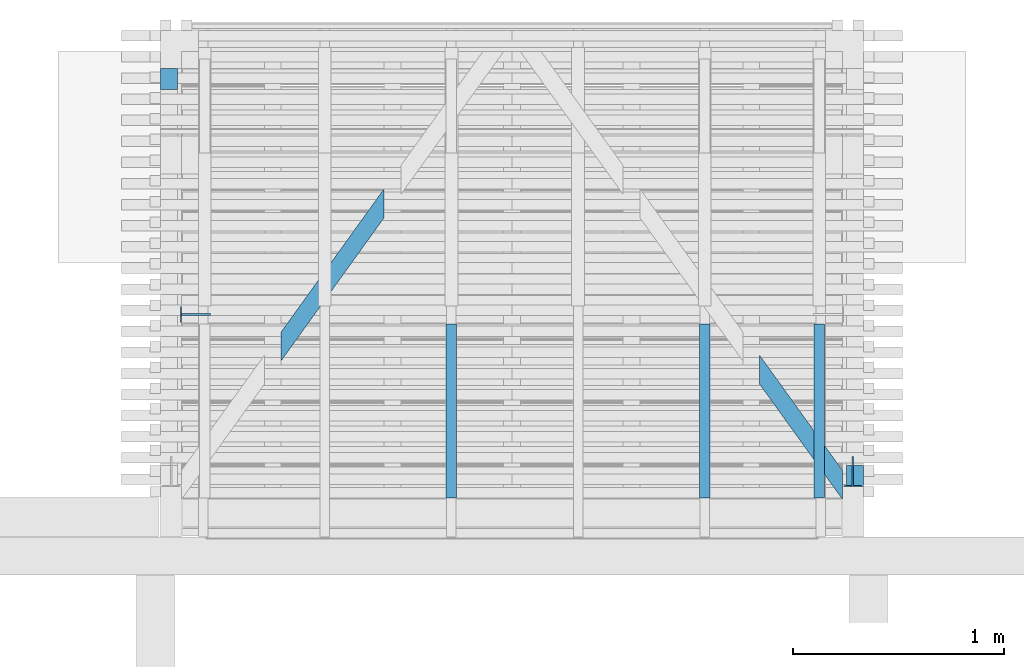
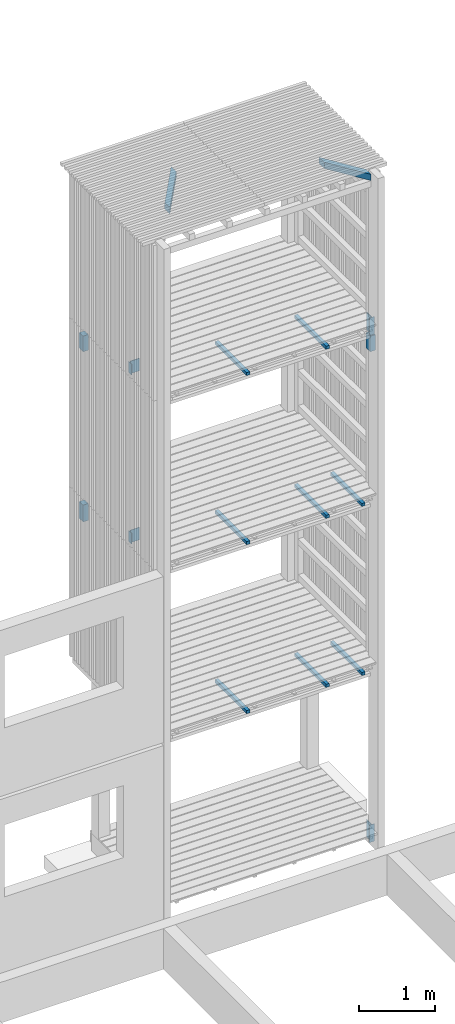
# One storey, part 168 of 182: 17 beams.
"""IFC2X3 building model written with IfcOpenShell, lengths in metres."""

from ifc_helpers import new_model, si_unit, frame, origin, place, context, project, spatial, faceted_brep, element, save


model = new_model("IFC2X3")

# Units and contexts
model_context = context("Model", 3, precision=1e-06, world=origin())
ifc_project = project(units=[si_unit("LENGTHUNIT", "METRE"), si_unit("PLANEANGLEUNIT", "RADIAN")], contexts=[model_context])

# Site, building, storey
site = spatial("IfcSite", under=ifc_project, CompositionType="ELEMENT")
building = spatial("IfcBuilding", under=site, CompositionType="ELEMENT")
storey = spatial("IfcBuildingStorey", under=building, Name="vs", CompositionType="ELEMENT", Elevation=-0.85)

# Beams
placement = place(None, origin())
beam_1_placement = place(placement, frame((26.334999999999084, 10.760077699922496, 7.576188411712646), z_axis=(0.0, 1.0, 0.0), x_axis=(0.0, 0.0, 1.0)))
element("IfcBeam", 1, at=beam_1_placement, inside=storey, Name="Support bardage", context=model_context, shape_type="Brep", body=[
    faceted_brep([(0.248811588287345, 0.039999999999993, -0.050000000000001), (0.248811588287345, 0.039999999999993, 0.05), (0.248811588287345, -0.04000000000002, 0.05), (0.248811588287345, -0.04000000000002, -0.050000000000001), (0.248811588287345, 0.039999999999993, -0.050000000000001), (0.248811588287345, -0.04000000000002, -0.050000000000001), (0.0, -0.04000000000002, -0.050000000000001), (0.0, 0.039999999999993, -0.050000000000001), (0.0, -0.04000000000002, -0.050000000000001), (0.248811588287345, -0.04000000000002, -0.050000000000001), (0.248811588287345, -0.04000000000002, 0.05), (0.0, -0.04000000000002, 0.05), (0.0, -0.04000000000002, 0.05), (0.248811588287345, -0.04000000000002, 0.05), (0.248811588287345, 0.039999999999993, 0.05), (0.0, 0.039999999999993, 0.05), (0.0, 0.039999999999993, 0.05), (0.248811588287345, 0.039999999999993, 0.05), (0.248811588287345, 0.039999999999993, -0.050000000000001), (0.0, 0.039999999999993, -0.050000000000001), (0.0, -0.04000000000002, 0.05), (0.0, 0.039999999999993, 0.05), (0.0, 0.039999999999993, -0.050000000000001), (0.0, -0.04000000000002, -0.050000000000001)], [[[0, 1, 2, 3]], [[4, 5, 6, 7]], [[8, 9, 10, 11]], [[12, 13, 14, 15]], [[16, 17, 18, 19]], [[20, 21, 22, 23]]]),
])
beam_2_placement = place(placement, frame((26.16499999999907, 10.655077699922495, 2.517999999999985), z_axis=(0.0, 0.0, 1.0), x_axis=(0.0, 1.0, 0.0)))
element("IfcBeam", 2, at=beam_2_placement, inside=storey, Name="Calage", context=model_context, shape_type="Brep", body=[
    faceted_brep([(-1e-15, -0.025000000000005, 0.025), (0.824999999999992, -0.025000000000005, 0.025), (0.824999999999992, 0.024999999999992, 0.025), (-1e-15, 0.024999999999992, 0.025), (-1e-15, 0.024999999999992, 0.025), (0.824999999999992, 0.024999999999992, 0.025), (0.824999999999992, 0.024999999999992, -0.025), (-1e-15, 0.024999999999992, -0.025), (0.824999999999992, 0.024999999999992, 0.025), (0.824999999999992, -0.025000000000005, 0.025), (0.824999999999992, -0.025000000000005, -0.025), (0.824999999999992, 0.024999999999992, -0.025), (-1e-15, -0.025000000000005, -0.025), (0.824999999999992, -0.025000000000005, -0.025), (0.824999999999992, -0.025000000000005, 0.025), (-1e-15, -0.025000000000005, 0.025), (-1e-15, 0.024999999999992, -0.025), (0.824999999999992, 0.024999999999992, -0.025), (0.824999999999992, -0.025000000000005, -0.025), (-1e-15, -0.025000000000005, -0.025), (-1e-15, 0.024999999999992, 0.025), (-1e-15, 0.024999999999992, -0.025), (-1e-15, -0.025000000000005, -0.025), (-1e-15, -0.025000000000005, 0.025)], [[[0, 1, 2, 3]], [[4, 5, 6, 7]], [[8, 9, 10, 11]], [[12, 13, 14, 15]], [[16, 17, 18, 19]], [[20, 21, 22, 23]]]),
])
beam_3_placement = place(placement, frame((25.622999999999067, 10.655077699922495, 5.217999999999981), z_axis=(0.0, 0.0, 1.0), x_axis=(0.0, 1.0, 0.0)))
element("IfcBeam", 3, at=beam_3_placement, inside=storey, Name="Calage", context=model_context, shape_type="Brep", body=[
    faceted_brep([(0.824999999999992, -0.025000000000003, 0.024999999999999), (0.824999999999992, 0.024999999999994, 0.024999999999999), (-1e-15, 0.024999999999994, 0.024999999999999), (-1e-15, -0.025000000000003, 0.024999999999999), (-1e-15, 0.024999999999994, 0.024999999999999), (0.824999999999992, 0.024999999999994, 0.024999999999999), (0.824999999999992, 0.024999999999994, -0.025), (-1e-15, 0.024999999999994, -0.025), (0.824999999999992, 0.024999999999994, 0.024999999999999), (0.824999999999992, -0.025000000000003, 0.024999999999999), (0.824999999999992, -0.025000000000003, -0.025), (0.824999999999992, 0.024999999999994, -0.025), (0.824999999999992, -0.025000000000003, -0.025), (0.824999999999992, -0.025000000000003, 0.024999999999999), (-1e-15, -0.025000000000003, 0.024999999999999), (-1e-15, -0.025000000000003, -0.025), (-1e-15, 0.024999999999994, -0.025), (0.824999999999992, 0.024999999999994, -0.025), (0.824999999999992, -0.025000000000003, -0.025), (-1e-15, -0.025000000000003, -0.025), (-1e-15, 0.024999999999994, 0.024999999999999), (-1e-15, 0.024999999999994, -0.025), (-1e-15, -0.025000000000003, -0.025), (-1e-15, -0.025000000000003, 0.024999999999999)], [[[0, 1, 2, 3]], [[4, 5, 6, 7]], [[8, 9, 10, 11]], [[12, 13, 14, 15]], [[16, 17, 18, 19]], [[20, 21, 22, 23]]]),
])
beam_4_placement = place(placement, frame((26.16499999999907, 10.655077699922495, 5.217999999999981), z_axis=(0.0, 0.0, 1.0), x_axis=(0.0, 1.0, 0.0)))
element("IfcBeam", 4, at=beam_4_placement, inside=storey, Name="Calage", context=model_context, shape_type="Brep", body=[
    faceted_brep([(-1e-15, -0.025000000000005, 0.024999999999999), (0.824999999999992, -0.025000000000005, 0.024999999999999), (0.824999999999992, 0.024999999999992, 0.024999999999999), (-1e-15, 0.024999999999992, 0.024999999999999), (-1e-15, 0.024999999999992, 0.024999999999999), (0.824999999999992, 0.024999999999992, 0.024999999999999), (0.824999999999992, 0.024999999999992, -0.025), (-1e-15, 0.024999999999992, -0.025), (0.824999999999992, 0.024999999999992, 0.024999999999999), (0.824999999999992, -0.025000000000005, 0.024999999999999), (0.824999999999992, -0.025000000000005, -0.025), (0.824999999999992, 0.024999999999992, -0.025), (-1e-15, -0.025000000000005, -0.025), (0.824999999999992, -0.025000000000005, -0.025), (0.824999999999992, -0.025000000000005, 0.024999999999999), (-1e-15, -0.025000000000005, 0.024999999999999), (-1e-15, 0.024999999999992, -0.025), (0.824999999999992, 0.024999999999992, -0.025), (0.824999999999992, -0.025000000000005, -0.025), (-1e-15, -0.025000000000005, -0.025), (-1e-15, 0.024999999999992, 0.024999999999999), (-1e-15, 0.024999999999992, -0.025), (-1e-15, -0.025000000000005, -0.025), (-1e-15, -0.025000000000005, 0.024999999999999)], [[[0, 1, 2, 3]], [[4, 5, 6, 7]], [[8, 9, 10, 11]], [[12, 13, 14, 15]], [[16, 17, 18, 19]], [[20, 21, 22, 23]]]),
])
beam_5_placement = place(placement, frame((26.283999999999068, 10.781077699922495, -0.119999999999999), z_axis=(0.0, 0.0, 1.0), x_axis=(1.0, 0.0, 0.0)))
element("IfcBeam", 5, at=beam_5_placement, inside=storey, Name="Contre-usinage", context=model_context, shape_type="Brep", body=[
    faceted_brep([(0.037000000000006, -0.065999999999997, -0.14), (0.037000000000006, 0.071, -0.14), (0.045000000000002, 0.071, -0.14), (0.045000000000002, -0.065999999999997, -0.14), (0.082000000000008, -0.066000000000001, -0.14), (0.082000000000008, -0.071, -0.14), (0.0, -0.071, -0.14), (0.0, -0.066000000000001, -0.14), (0.045000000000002, 0.071, -0.14), (0.037000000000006, 0.071, -0.14), (0.037000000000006, 0.071, 0.14), (0.045000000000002, 0.071, 0.14), (0.045000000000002, -0.066000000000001, 0.14), (0.045000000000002, -0.065999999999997, -0.14), (0.045000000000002, 0.071, -0.14), (0.045000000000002, 0.071, 0.14), (0.082000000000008, -0.066000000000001, -0.14), (0.045000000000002, -0.065999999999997, -0.14), (0.045000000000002, -0.066000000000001, 0.14), (0.082000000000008, -0.066000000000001, 0.14), (0.082000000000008, -0.071, -0.14), (0.082000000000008, -0.066000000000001, -0.14), (0.082000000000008, -0.066000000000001, 0.14), (0.082000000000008, -0.071, 0.14), (0.0, -0.071, -0.14), (0.082000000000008, -0.071, -0.14), (0.082000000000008, -0.071, 0.14), (0.0, -0.071, 0.14), (0.0, -0.066000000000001, -0.14), (0.0, -0.071, -0.14), (0.0, -0.071, 0.14), (0.0, -0.066000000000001, 0.14), (0.037000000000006, -0.065999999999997, -0.14), (0.0, -0.066000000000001, -0.14), (0.0, -0.066000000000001, 0.14), (0.037000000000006, -0.066000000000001, 0.14), (0.037000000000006, 0.071, 0.14), (0.037000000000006, 0.071, -0.14), (0.037000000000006, -0.065999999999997, -0.14), (0.037000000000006, -0.066000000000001, 0.14), (0.082000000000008, -0.066000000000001, 0.14), (0.045000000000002, -0.066000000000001, 0.14), (0.045000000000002, 0.071, 0.14), (0.037000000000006, 0.071, 0.14), (0.037000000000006, -0.066000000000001, 0.14), (0.0, -0.066000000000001, 0.14), (0.0, -0.071, 0.14), (0.082000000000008, -0.071, 0.14)], [[[0, 1, 2, 3, 4, 5, 6, 7]], [[8, 9, 10, 11]], [[12, 13, 14, 15]], [[16, 17, 18, 19]], [[20, 21, 22, 23]], [[24, 25, 26, 27]], [[28, 29, 30, 31]], [[32, 33, 34, 35]], [[36, 37, 38, 39]], [[40, 41, 42, 43, 44, 45, 46, 47]]]),
])
beam_6_placement = place(placement, frame((24.422999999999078, 10.655077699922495, 7.917999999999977), z_axis=(0.0, 0.0, 1.0), x_axis=(0.0, 1.0, 0.0)))
element("IfcBeam", 6, at=beam_6_placement, inside=storey, Name="Calage", context=model_context, shape_type="Brep", body=[
    faceted_brep([(0.824999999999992, -0.024999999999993, 0.024999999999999), (0.824999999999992, 0.025000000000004, 0.024999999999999), (-1e-15, 0.025000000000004, 0.024999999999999), (-1e-15, -0.024999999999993, 0.024999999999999), (-1e-15, 0.025000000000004, 0.024999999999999), (0.824999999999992, 0.025000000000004, 0.024999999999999), (0.824999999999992, 0.025000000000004, -0.025), (-1e-15, 0.025000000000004, -0.025), (0.824999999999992, 0.025000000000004, 0.024999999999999), (0.824999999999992, -0.024999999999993, 0.024999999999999), (0.824999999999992, -0.024999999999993, -0.025), (0.824999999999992, 0.025000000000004, -0.025), (0.824999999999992, -0.024999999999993, -0.025), (0.824999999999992, -0.024999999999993, 0.024999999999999), (-1e-15, -0.024999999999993, 0.024999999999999), (-1e-15, -0.024999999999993, -0.025), (-1e-15, 0.025000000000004, -0.025), (0.824999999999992, 0.025000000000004, -0.025), (0.824999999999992, -0.024999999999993, -0.025), (-1e-15, -0.024999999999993, -0.025), (-1e-15, 0.025000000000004, 0.024999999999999), (-1e-15, 0.025000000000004, -0.025), (-1e-15, -0.024999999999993, -0.025), (-1e-15, -0.024999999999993, 0.024999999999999)], [[[0, 1, 2, 3]], [[4, 5, 6, 7]], [[8, 9, 10, 11]], [[12, 13, 14, 15]], [[16, 17, 18, 19]], [[20, 21, 22, 23]]]),
])
beam_7_placement = place(placement, frame((25.622999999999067, 10.655077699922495, 7.917999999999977), z_axis=(0.0, 0.0, 1.0), x_axis=(0.0, 1.0, 0.0)))
element("IfcBeam", 7, at=beam_7_placement, inside=storey, Name="Calage", context=model_context, shape_type="Brep", body=[
    faceted_brep([(0.824999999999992, -0.025000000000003, 0.024999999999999), (0.824999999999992, 0.024999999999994, 0.024999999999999), (-1e-15, 0.024999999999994, 0.024999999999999), (-1e-15, -0.025000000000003, 0.024999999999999), (-1e-15, 0.024999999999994, 0.024999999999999), (0.824999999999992, 0.024999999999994, 0.024999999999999), (0.824999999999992, 0.024999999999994, -0.025), (-1e-15, 0.024999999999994, -0.025), (0.824999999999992, 0.024999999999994, 0.024999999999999), (0.824999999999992, -0.025000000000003, 0.024999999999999), (0.824999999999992, -0.025000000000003, -0.025), (0.824999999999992, 0.024999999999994, -0.025), (0.824999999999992, -0.025000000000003, -0.025), (0.824999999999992, -0.025000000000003, 0.024999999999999), (-1e-15, -0.025000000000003, 0.024999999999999), (-1e-15, -0.025000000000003, -0.025), (-1e-15, 0.024999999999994, -0.025), (0.824999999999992, 0.024999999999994, -0.025), (0.824999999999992, -0.025000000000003, -0.025), (-1e-15, -0.025000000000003, -0.025), (-1e-15, 0.024999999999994, 0.024999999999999), (-1e-15, 0.024999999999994, -0.025), (-1e-15, -0.025000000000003, -0.025), (-1e-15, -0.025000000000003, 0.024999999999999)], [[[0, 1, 2, 3]], [[4, 5, 6, 7]], [[8, 9, 10, 11]], [[12, 13, 14, 15]], [[16, 17, 18, 19]], [[20, 21, 22, 23]]]),
])
beam_8_placement = place(placement, frame((25.622999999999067, 10.655077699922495, 2.517999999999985), z_axis=(0.0, 0.0, 1.0), x_axis=(0.0, 1.0, 0.0)))
element("IfcBeam", 8, at=beam_8_placement, inside=storey, Name="Calage", context=model_context, shape_type="Brep", body=[
    faceted_brep([(0.824999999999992, -0.025000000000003, 0.025), (0.824999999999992, 0.024999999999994, 0.025), (-1e-15, 0.024999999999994, 0.025), (-1e-15, -0.025000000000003, 0.025), (-1e-15, 0.024999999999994, 0.025), (0.824999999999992, 0.024999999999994, 0.025), (0.824999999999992, 0.024999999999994, -0.025), (-1e-15, 0.024999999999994, -0.025), (0.824999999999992, 0.024999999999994, 0.025), (0.824999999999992, -0.025000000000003, 0.025), (0.824999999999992, -0.025000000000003, -0.025), (0.824999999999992, 0.024999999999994, -0.025), (0.824999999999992, -0.025000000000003, -0.025), (0.824999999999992, -0.025000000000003, 0.025), (-1e-15, -0.025000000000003, 0.025), (-1e-15, -0.025000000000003, -0.025), (-1e-15, 0.024999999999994, -0.025), (0.824999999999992, 0.024999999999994, -0.025), (0.824999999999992, -0.025000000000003, -0.025), (-1e-15, -0.025000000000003, -0.025), (-1e-15, 0.024999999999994, 0.025), (-1e-15, 0.024999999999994, -0.025), (-1e-15, -0.025000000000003, -0.025), (-1e-15, -0.025000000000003, 0.025)], [[[0, 1, 2, 3]], [[4, 5, 6, 7]], [[8, 9, 10, 11]], [[12, 13, 14, 15]], [[16, 17, 18, 19]], [[20, 21, 22, 23]]]),
])
beam_9_placement = place(placement, frame((26.283999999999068, 10.781077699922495, 7.979999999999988), z_axis=(0.0, 0.0, 1.0), x_axis=(1.0, 0.0, 0.0)))
element("IfcBeam", 9, at=beam_9_placement, inside=storey, Name="Contre-usinage", context=model_context, shape_type="Brep", body=[
    faceted_brep([(0.037000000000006, -0.065999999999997, -0.14), (0.037000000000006, 0.071, -0.14), (0.045000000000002, 0.071, -0.14), (0.045000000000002, -0.065999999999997, -0.14), (0.082000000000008, -0.066000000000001, -0.14), (0.082000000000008, -0.071, -0.14), (0.0, -0.071, -0.14), (0.0, -0.066000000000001, -0.14), (0.045000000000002, 0.071, -0.14), (0.037000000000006, 0.071, -0.14), (0.037000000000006, 0.071, 0.140000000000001), (0.045000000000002, 0.071, 0.140000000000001), (0.045000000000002, -0.066000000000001, 0.140000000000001), (0.045000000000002, -0.065999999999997, -0.14), (0.045000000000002, 0.071, -0.14), (0.045000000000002, 0.071, 0.140000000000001), (0.082000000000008, -0.066000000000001, -0.14), (0.045000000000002, -0.065999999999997, -0.14), (0.045000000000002, -0.066000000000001, 0.140000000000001), (0.082000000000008, -0.066000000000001, 0.140000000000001), (0.082000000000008, -0.071, -0.14), (0.082000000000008, -0.066000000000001, -0.14), (0.082000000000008, -0.066000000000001, 0.140000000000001), (0.082000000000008, -0.071, 0.140000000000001), (0.0, -0.071, -0.14), (0.082000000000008, -0.071, -0.14), (0.082000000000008, -0.071, 0.140000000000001), (0.0, -0.071, 0.140000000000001), (0.0, -0.066000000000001, -0.14), (0.0, -0.071, -0.14), (0.0, -0.071, 0.140000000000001), (0.0, -0.066000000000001, 0.140000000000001), (0.037000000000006, -0.065999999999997, -0.14), (0.0, -0.066000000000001, -0.14), (0.0, -0.066000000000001, 0.140000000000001), (0.037000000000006, -0.066000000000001, 0.140000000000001), (0.037000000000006, 0.071, 0.140000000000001), (0.037000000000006, 0.071, -0.14), (0.037000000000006, -0.065999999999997, -0.14), (0.037000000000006, -0.066000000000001, 0.140000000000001), (0.082000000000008, -0.066000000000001, 0.140000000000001), (0.045000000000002, -0.066000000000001, 0.140000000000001), (0.045000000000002, 0.071, 0.140000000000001), (0.037000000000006, 0.071, 0.140000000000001), (0.037000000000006, -0.066000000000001, 0.140000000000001), (0.0, -0.066000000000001, 0.140000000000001), (0.0, -0.071, 0.140000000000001), (0.082000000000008, -0.071, 0.140000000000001)], [[[0, 1, 2, 3, 4, 5, 6, 7]], [[8, 9, 10, 11]], [[12, 13, 14, 15]], [[16, 17, 18, 19]], [[20, 21, 22, 23]], [[24, 25, 26, 27]], [[28, 29, 30, 31]], [[32, 33, 34, 35]], [[36, 37, 38, 39]], [[40, 41, 42, 43, 44, 45, 46, 47]]]),
])
beam_10_placement = place(placement, frame((24.422999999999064, 10.655077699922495, 2.517999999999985), z_axis=(0.0, 0.0, 1.0), x_axis=(0.0, 1.0, 0.0)))
element("IfcBeam", 10, at=beam_10_placement, inside=storey, Name="Calage", context=model_context, shape_type="Brep", body=[
    faceted_brep([(0.824999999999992, -0.025000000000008, 0.025), (0.824999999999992, 0.024999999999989, 0.025), (-1e-15, 0.024999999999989, 0.025), (-1e-15, -0.025000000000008, 0.025), (-1e-15, 0.024999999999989, 0.025), (0.824999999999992, 0.024999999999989, 0.025), (0.824999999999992, 0.024999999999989, -0.025), (-1e-15, 0.024999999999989, -0.025), (0.824999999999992, 0.024999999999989, 0.025), (0.824999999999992, -0.025000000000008, 0.025), (0.824999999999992, -0.025000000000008, -0.025), (0.824999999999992, 0.024999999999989, -0.025), (0.824999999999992, -0.025000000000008, -0.025), (0.824999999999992, -0.025000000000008, 0.025), (-1e-15, -0.025000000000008, 0.025), (-1e-15, -0.025000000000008, -0.025), (-1e-15, 0.024999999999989, -0.025), (0.824999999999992, 0.024999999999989, -0.025), (0.824999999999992, -0.025000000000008, -0.025), (-1e-15, -0.025000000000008, -0.025), (-1e-15, 0.024999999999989, 0.025), (-1e-15, 0.024999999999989, -0.025), (-1e-15, -0.025000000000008, -0.025), (-1e-15, -0.025000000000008, 0.025)], [[[0, 1, 2, 3]], [[4, 5, 6, 7]], [[8, 9, 10, 11]], [[12, 13, 14, 15]], [[16, 17, 18, 19]], [[20, 21, 22, 23]]]),
])
beam_11_placement = place(placement, frame((26.307471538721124, 10.673435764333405, 10.404999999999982), z_axis=(0.0, 0.0, 1.0), x_axis=(-0.58395161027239, 0.811788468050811, 0.0)))
element("IfcBeam", 11, at=beam_11_placement, inside=storey, Name="Support bardage", context=model_context, shape_type="Brep", body=[
    faceted_brep([(2e-15, 0.040000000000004, -0.050000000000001), (0.111213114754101, -0.039999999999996, -0.049999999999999), (0.111213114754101, -0.039999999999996, 0.050000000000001), (2e-15, 0.040000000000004, 0.050000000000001), (0.111213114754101, -0.039999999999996, -0.049999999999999), (2e-15, 0.040000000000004, -0.050000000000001), (0.670717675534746, 0.04, -0.050000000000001), (0.781930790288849, -0.040000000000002, -0.050000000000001), (0.111213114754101, -0.039999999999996, 0.050000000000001), (0.111213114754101, -0.039999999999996, -0.049999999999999), (0.781930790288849, -0.040000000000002, -0.050000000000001), (0.781930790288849, -0.040000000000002, 0.050000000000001), (2e-15, 0.040000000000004, 0.050000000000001), (0.111213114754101, -0.039999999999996, 0.050000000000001), (0.781930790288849, -0.040000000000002, 0.050000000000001), (0.670717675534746, 0.04, 0.050000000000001), (0.670717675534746, 0.04, -0.050000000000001), (2e-15, 0.040000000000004, -0.050000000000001), (2e-15, 0.040000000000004, 0.050000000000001), (0.670717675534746, 0.04, 0.050000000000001), (0.670717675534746, 0.04, 0.050000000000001), (0.781930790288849, -0.040000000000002, 0.050000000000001), (0.781930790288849, -0.040000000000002, -0.050000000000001), (0.670717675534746, 0.04, -0.050000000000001)], [[[0, 1, 2, 3]], [[4, 5, 6, 7]], [[8, 9, 10, 11]], [[12, 13, 14, 15]], [[16, 17, 18, 19]], [[20, 21, 22, 23]]]),
])
beam_12_placement = place(placement, frame((23.08499999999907, 12.640077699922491, 4.85796194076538), z_axis=(0.0, -1.0, 0.0), x_axis=(0.0, 0.0, 1.0)))
element("IfcBeam", 12, at=beam_12_placement, inside=storey, Name="Support bardage", context=model_context, shape_type="Brep", body=[
    faceted_brep([(0.267038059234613, -0.040000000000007, -0.050000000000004), (0.267038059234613, 0.039999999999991, -0.050000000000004), (0.267038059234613, 0.039999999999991, 0.049999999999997), (0.267038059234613, -0.040000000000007, 0.049999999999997), (0.267038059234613, 0.039999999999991, 0.049999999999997), (0.267038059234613, 0.039999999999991, -0.050000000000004), (0.0, 0.039999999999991, -0.050000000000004), (0.0, 0.039999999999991, 0.049999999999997), (0.267038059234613, -0.040000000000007, 0.049999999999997), (0.267038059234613, 0.039999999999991, 0.049999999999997), (0.0, 0.039999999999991, 0.049999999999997), (0.0, -0.040000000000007, 0.049999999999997), (0.267038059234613, 0.039999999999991, -0.050000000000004), (0.267038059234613, -0.040000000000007, -0.050000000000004), (0.0, -0.040000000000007, -0.050000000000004), (0.0, 0.039999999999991, -0.050000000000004), (0.267038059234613, -0.040000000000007, -0.050000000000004), (0.267038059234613, -0.040000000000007, 0.049999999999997), (0.0, -0.040000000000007, 0.049999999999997), (0.0, -0.040000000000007, -0.050000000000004), (0.0, 0.039999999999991, -0.050000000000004), (0.0, -0.040000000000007, -0.050000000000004), (0.0, -0.040000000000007, 0.049999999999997), (0.0, 0.039999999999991, 0.049999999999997)], [[[0, 1, 2, 3]], [[4, 5, 6, 7]], [[8, 9, 10, 11]], [[12, 13, 14, 15]], [[16, 17, 18, 19]], [[20, 21, 22, 23]]]),
])
beam_13_placement = place(placement, frame((23.210999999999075, 11.525077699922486, 7.839999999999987), z_axis=(1.0, 0.0, 0.0), x_axis=(0.0, 0.0, 1.0)))
element("IfcBeam", 13, at=beam_13_placement, inside=storey, Name="Contre-usinage", context=model_context, shape_type="Brep", body=[
    faceted_brep([(0.200000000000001, 0.004000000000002, -0.066000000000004), (0.200000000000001, -0.004000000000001, -0.066000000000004), (0.175000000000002, -0.004000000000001, -0.066000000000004), (0.175000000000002, 0.004000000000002, -0.066000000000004), (0.175000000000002, -0.004000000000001, -0.066000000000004), (2e-15, -0.004000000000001, -0.066000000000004), (2e-15, -0.038, -0.066000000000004), (0.175000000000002, -0.038, -0.066000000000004), (0.175000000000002, 0.038000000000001, -0.066000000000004), (2e-15, 0.038000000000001, -0.066000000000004), (2e-15, 0.004000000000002, -0.066000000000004), (0.175000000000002, 0.004000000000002, -0.066000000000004), (0.200000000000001, 0.004000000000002, -0.066000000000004), (0.175000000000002, 0.004000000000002, -0.066000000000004), (2e-15, 0.004000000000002, -0.066000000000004), (2e-15, 0.004000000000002, 0.070999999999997), (0.200000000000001, 0.004000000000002, 0.070999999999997), (0.200000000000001, 0.004000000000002, 0.070999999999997), (2e-15, 0.004000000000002, 0.070999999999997), (2e-15, -0.004000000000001, 0.070999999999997), (0.200000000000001, -0.004000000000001, 0.070999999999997), (0.175000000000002, -0.038, -0.070999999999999), (2e-15, -0.038, -0.070999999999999), (2e-15, 0.038000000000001, -0.070999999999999), (0.175000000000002, 0.038000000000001, -0.070999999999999), (0.175000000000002, 0.038000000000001, -0.066000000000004), (0.175000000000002, 0.004000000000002, -0.066000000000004), (0.175000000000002, -0.004000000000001, -0.066000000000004), (0.175000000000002, -0.038, -0.066000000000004), (0.175000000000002, -0.038, -0.070999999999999), (0.175000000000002, 0.038000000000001, -0.070999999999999), (0.200000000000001, -0.004000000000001, 0.070999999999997), (2e-15, -0.004000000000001, 0.070999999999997), (2e-15, -0.004000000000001, -0.066000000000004), (0.175000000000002, -0.004000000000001, -0.066000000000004), (0.200000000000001, -0.004000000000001, -0.066000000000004), (0.200000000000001, -0.004000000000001, -0.066000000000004), (0.200000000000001, 0.004000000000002, -0.066000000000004), (0.200000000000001, 0.004000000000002, 0.070999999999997), (0.200000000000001, -0.004000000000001, 0.070999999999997), (0.175000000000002, -0.038, -0.070999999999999), (0.175000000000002, -0.038, -0.066000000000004), (2e-15, -0.038, -0.066000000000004), (2e-15, -0.038, -0.070999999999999), (2e-15, -0.038, -0.066000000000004), (2e-15, -0.004000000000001, -0.066000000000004), (2e-15, -0.004000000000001, 0.070999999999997), (2e-15, 0.004000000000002, 0.070999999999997), (2e-15, 0.004000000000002, -0.066000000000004), (2e-15, 0.038000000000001, -0.066000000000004), (2e-15, 0.038000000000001, -0.070999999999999), (2e-15, -0.038, -0.070999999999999), (0.175000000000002, 0.038000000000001, -0.066000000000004), (0.175000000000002, 0.038000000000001, -0.070999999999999), (2e-15, 0.038000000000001, -0.070999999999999), (2e-15, 0.038000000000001, -0.066000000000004)], [[[0, 1, 2, 3]], [[4, 5, 6, 7]], [[8, 9, 10, 11]], [[12, 13, 14, 15, 16]], [[17, 18, 19, 20]], [[21, 22, 23, 24]], [[25, 26, 27, 28, 29, 30]], [[31, 32, 33, 34, 35]], [[36, 37, 38, 39]], [[40, 41, 42, 43]], [[44, 45, 46, 47, 48, 49, 50, 51]], [[52, 53, 54, 55]]]),
])
beam_14_placement = place(placement, frame((24.422999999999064, 10.655077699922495, 5.217999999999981), z_axis=(0.0, 0.0, 1.0), x_axis=(0.0, 1.0, 0.0)))
element("IfcBeam", 14, at=beam_14_placement, inside=storey, Name="Calage", context=model_context, shape_type="Brep", body=[
    faceted_brep([(0.824999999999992, -0.025000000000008, 0.024999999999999), (0.824999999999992, 0.024999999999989, 0.024999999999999), (-1e-15, 0.024999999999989, 0.024999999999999), (-1e-15, -0.025000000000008, 0.024999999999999), (-1e-15, 0.024999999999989, 0.024999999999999), (0.824999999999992, 0.024999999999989, 0.024999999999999), (0.824999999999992, 0.024999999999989, -0.025), (-1e-15, 0.024999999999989, -0.025), (0.824999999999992, 0.024999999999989, 0.024999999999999), (0.824999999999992, -0.025000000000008, 0.024999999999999), (0.824999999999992, -0.025000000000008, -0.025), (0.824999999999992, 0.024999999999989, -0.025), (0.824999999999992, -0.025000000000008, -0.025), (0.824999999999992, -0.025000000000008, 0.024999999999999), (-1e-15, -0.025000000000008, 0.024999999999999), (-1e-15, -0.025000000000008, -0.025), (-1e-15, 0.024999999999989, -0.025), (0.824999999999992, 0.024999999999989, -0.025), (0.824999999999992, -0.025000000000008, -0.025), (-1e-15, -0.025000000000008, -0.025), (-1e-15, 0.024999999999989, 0.024999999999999), (-1e-15, 0.024999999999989, -0.025), (-1e-15, -0.025000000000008, -0.025), (-1e-15, -0.025000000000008, 0.024999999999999)], [[[0, 1, 2, 3]], [[4, 5, 6, 7]], [[8, 9, 10, 11]], [[12, 13, 14, 15]], [[16, 17, 18, 19]], [[20, 21, 22, 23]]]),
])
beam_15_placement = place(placement, frame((23.08499999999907, 12.640077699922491, 7.576188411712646), z_axis=(0.0, -1.0, 0.0), x_axis=(0.0, 0.0, 1.0)))
element("IfcBeam", 15, at=beam_15_placement, inside=storey, Name="Support bardage", context=model_context, shape_type="Brep", body=[
    faceted_brep([(0.248811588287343, -0.040000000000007, -0.050000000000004), (0.248811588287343, 0.039999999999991, -0.050000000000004), (0.248811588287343, 0.039999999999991, 0.049999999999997), (0.248811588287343, -0.040000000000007, 0.049999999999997), (0.248811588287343, 0.039999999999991, 0.049999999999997), (0.248811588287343, 0.039999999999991, -0.050000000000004), (0.0, 0.039999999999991, -0.050000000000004), (0.0, 0.039999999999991, 0.049999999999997), (0.248811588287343, 0.039999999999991, -0.050000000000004), (0.248811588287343, -0.040000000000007, -0.050000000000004), (0.0, -0.040000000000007, -0.050000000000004), (0.0, 0.039999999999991, -0.050000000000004), (0.248811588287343, -0.040000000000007, -0.050000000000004), (0.248811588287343, -0.040000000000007, 0.049999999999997), (0.0, -0.040000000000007, 0.049999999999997), (0.0, -0.040000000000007, -0.050000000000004), (0.248811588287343, -0.040000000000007, 0.049999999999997), (0.248811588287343, 0.039999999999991, 0.049999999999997), (0.0, 0.039999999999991, 0.049999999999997), (0.0, -0.040000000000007, 0.049999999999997), (0.0, -0.040000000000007, -0.050000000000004), (0.0, -0.040000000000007, 0.049999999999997), (0.0, 0.039999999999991, 0.049999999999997), (0.0, 0.039999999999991, -0.050000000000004)], [[[0, 1, 2, 3]], [[4, 5, 6, 7]], [[8, 9, 10, 11]], [[12, 13, 14, 15]], [[16, 17, 18, 19]], [[20, 21, 22, 23]]]),
])
beam_16_placement = place(placement, frame((23.210999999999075, 11.525077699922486, 5.139999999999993), z_axis=(1.0, 0.0, 0.0), x_axis=(0.0, 0.0, 1.0)))
element("IfcBeam", 16, at=beam_16_placement, inside=storey, Name="Contre-usinage", context=model_context, shape_type="Brep", body=[
    faceted_brep([(0.2, 0.004000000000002, -0.066000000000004), (0.2, -0.004000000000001, -0.066000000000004), (0.174999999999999, -0.004000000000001, -0.066000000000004), (0.174999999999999, 0.004000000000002, -0.066000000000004), (0.174999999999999, -0.004000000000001, -0.066000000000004), (0.0, -0.004000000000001, -0.066000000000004), (0.0, -0.038, -0.066000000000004), (0.174999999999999, -0.038, -0.066000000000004), (0.174999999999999, 0.038000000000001, -0.066000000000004), (0.0, 0.038000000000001, -0.066000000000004), (0.0, 0.004000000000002, -0.066000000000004), (0.174999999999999, 0.004000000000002, -0.066000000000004), (0.2, 0.004000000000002, -0.066000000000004), (0.174999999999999, 0.004000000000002, -0.066000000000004), (0.0, 0.004000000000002, -0.066000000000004), (0.0, 0.004000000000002, 0.070999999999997), (0.2, 0.004000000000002, 0.070999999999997), (0.2, 0.004000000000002, 0.070999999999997), (0.0, 0.004000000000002, 0.070999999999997), (0.0, -0.004000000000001, 0.070999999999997), (0.2, -0.004000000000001, 0.070999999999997), (0.174999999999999, -0.038, -0.070999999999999), (0.0, -0.038, -0.070999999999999), (0.0, 0.038000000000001, -0.070999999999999), (0.174999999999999, 0.038000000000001, -0.070999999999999), (0.174999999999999, 0.038000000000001, -0.066000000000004), (0.174999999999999, 0.004000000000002, -0.066000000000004), (0.174999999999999, -0.004000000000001, -0.066000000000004), (0.174999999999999, -0.038, -0.066000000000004), (0.174999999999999, -0.038, -0.070999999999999), (0.174999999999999, 0.038000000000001, -0.070999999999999), (0.2, -0.004000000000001, 0.070999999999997), (0.0, -0.004000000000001, 0.070999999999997), (0.0, -0.004000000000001, -0.066000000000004), (0.174999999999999, -0.004000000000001, -0.066000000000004), (0.2, -0.004000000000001, -0.066000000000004), (0.2, -0.004000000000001, -0.066000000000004), (0.2, 0.004000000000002, -0.066000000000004), (0.2, 0.004000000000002, 0.070999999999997), (0.2, -0.004000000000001, 0.070999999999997), (0.174999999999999, -0.038, -0.070999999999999), (0.174999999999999, -0.038, -0.066000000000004), (0.0, -0.038, -0.066000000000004), (0.0, -0.038, -0.070999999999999), (0.0, -0.038, -0.066000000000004), (0.0, -0.004000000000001, -0.066000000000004), (0.0, -0.004000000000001, 0.070999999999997), (0.0, 0.004000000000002, 0.070999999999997), (0.0, 0.004000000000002, -0.066000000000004), (0.0, 0.038000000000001, -0.066000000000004), (0.0, 0.038000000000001, -0.070999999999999), (0.0, -0.038, -0.070999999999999), (0.174999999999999, 0.038000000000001, -0.066000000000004), (0.174999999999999, 0.038000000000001, -0.070999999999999), (0.0, 0.038000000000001, -0.070999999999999), (0.0, 0.038000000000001, -0.066000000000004)], [[[0, 1, 2, 3]], [[4, 5, 6, 7]], [[8, 9, 10, 11]], [[12, 13, 14, 15, 16]], [[17, 18, 19, 20]], [[21, 22, 23, 24]], [[25, 26, 27, 28, 29, 30]], [[31, 32, 33, 34, 35]], [[36, 37, 38, 39]], [[40, 41, 42, 43]], [[44, 45, 46, 47, 48, 49, 50, 51]], [[52, 53, 54, 55]]]),
])
beam_17_placement = place(placement, frame((23.584195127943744, 11.329129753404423, 10.404999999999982), z_axis=(0.0, 0.0, 1.0), x_axis=(0.583951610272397, 0.811788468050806, 0.0)))
element("IfcBeam", 17, at=beam_17_placement, inside=storey, Name="Support bardage", context=model_context, shape_type="Brep", body=[
    faceted_brep([(0.833402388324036, -0.040000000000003, 0.050000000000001), (0.833402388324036, -0.040000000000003, -0.050000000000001), (0.944615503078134, 0.039999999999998, -0.050000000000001), (0.944615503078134, 0.039999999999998, 0.050000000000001), (0.833402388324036, -0.040000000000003, -0.050000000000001), (0.833402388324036, -0.040000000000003, 0.050000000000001), (3e-15, -0.040000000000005, 0.050000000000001), (3e-15, -0.040000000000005, -0.050000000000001), (0.944615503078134, 0.039999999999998, -0.050000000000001), (0.833402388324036, -0.040000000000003, -0.050000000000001), (3e-15, -0.040000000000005, -0.050000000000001), (0.111213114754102, 0.039999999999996, -0.050000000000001), (0.944615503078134, 0.039999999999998, 0.050000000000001), (0.944615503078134, 0.039999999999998, -0.050000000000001), (0.111213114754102, 0.039999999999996, -0.050000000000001), (0.111213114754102, 0.039999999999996, 0.050000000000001), (0.833402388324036, -0.040000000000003, 0.050000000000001), (0.944615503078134, 0.039999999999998, 0.050000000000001), (0.111213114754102, 0.039999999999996, 0.050000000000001), (3e-15, -0.040000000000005, 0.050000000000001), (0.111213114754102, 0.039999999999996, -0.050000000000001), (3e-15, -0.040000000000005, -0.050000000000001), (3e-15, -0.040000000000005, 0.050000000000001), (0.111213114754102, 0.039999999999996, 0.050000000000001)], [[[0, 1, 2, 3]], [[4, 5, 6, 7]], [[8, 9, 10, 11]], [[12, 13, 14, 15]], [[16, 17, 18, 19]], [[20, 21, 22, 23]]]),
])

save(model, "model.ifc")
